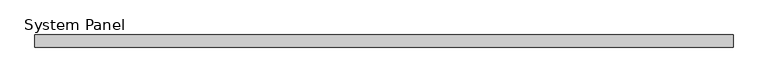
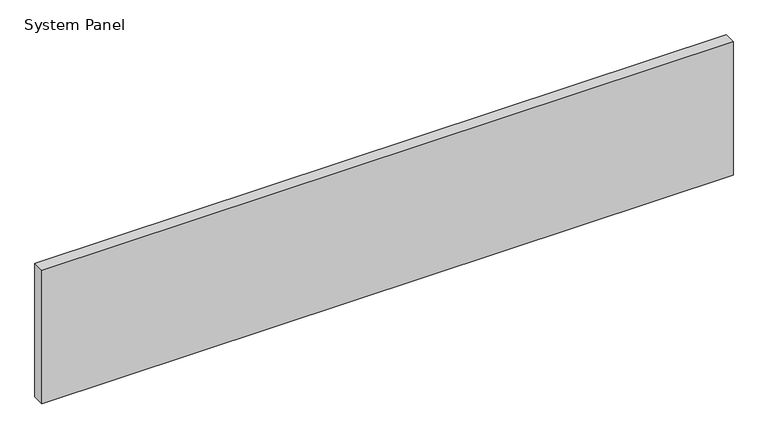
"""IFC4 building model written with IfcOpenShell, lengths in millimetres: plate geometry, System Panel : Glazed - ACMP (AL-1)."""

from ifc_helpers import new_model, si_unit, origin, origin_with_axes, place, context, project, spatial, polyline, outline, extrude, source, transform, mapped, element, save


def system_panel_e2b870e4(model_context):
    return source(origin(), model_context, "Body", "SweptSolid", [
        extrude(outline(polyline([(730.25, 0.0), (-730.25, 0.0), (-730.25, 25.4), (730.25, 25.4), (730.25, 0.0)])), origin_with_axes(), (0.0, 0.0, 1.0), 298.45),
    ])


if __name__ == "__main__":
    model = new_model("IFC4")
    model_context = context("Model", 3, world=origin())
    ifc_project = project(units=[si_unit("LENGTHUNIT", "METRE", prefix="MILLI")], contexts=[model_context])
    site = spatial("IfcSite", under=ifc_project)
    building = spatial("IfcBuilding", under=site)
    placement = place(None, origin())
    system_panel_shape = system_panel_e2b870e4(model_context)
    element("IfcPlate", 1, ObjectType="System Panel : Glazed - ACMP (AL-1)", at=placement, inside=building, context=model_context, shape_type="MappedRepresentation", body=[
        mapped(system_panel_shape, transform((0.0, 0.0, 0.0), x_axis=(1.0, 0.0, 0.0), y_axis=(0.0, 1.0, 0.0), z_axis=(0.0, 0.0, 1.0))),
    ])
    save(model, "model.ifc")
